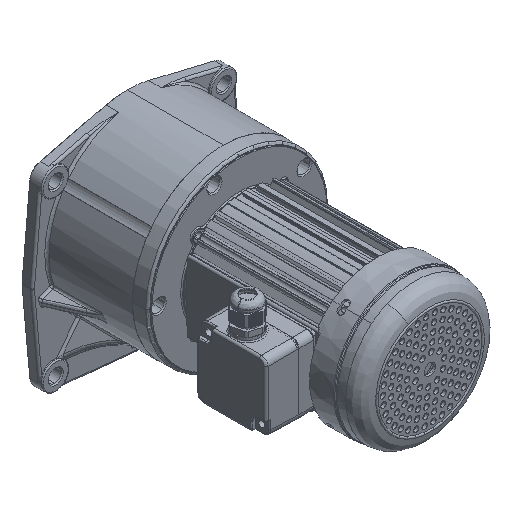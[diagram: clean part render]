
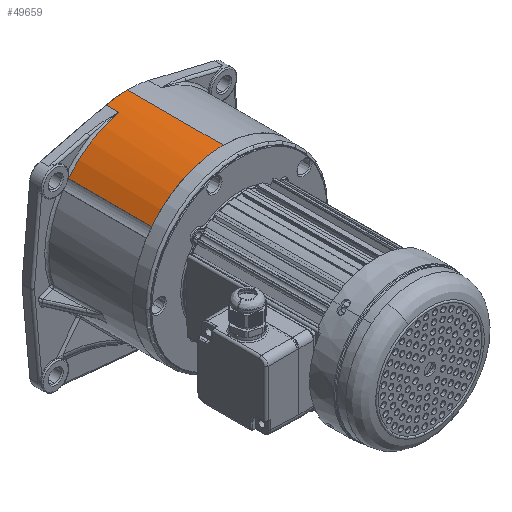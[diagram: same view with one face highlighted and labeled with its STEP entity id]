
A CAD part, isometric view. The second image highlights one B-rep face of the part: STEP entity #49659.
In plain terms, the highlighted cylindrical face has radius 84 mm (diameter 168 mm), a partial arc.
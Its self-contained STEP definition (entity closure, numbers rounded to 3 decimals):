
#702 = CARTESIAN_POINT ( 'NONE',  ( 0., 0., 23. ) ) ;
#703 = DIRECTION ( 'NONE',  ( 0., 1., 0. ) ) ;
#704 = DIRECTION ( 'NONE',  ( 0., 0., 1. ) ) ;
#24891 = LINE ( 'NONE', #24893, #117704 ) ;
#24893 = CARTESIAN_POINT ( 'NONE',  ( 0., 0., 107. ) ) ;
#24895 = DIRECTION ( 'NONE',  ( 0., 1., 0. ) ) ;
#24970 = LINE ( 'NONE', #24971, #117717 ) ;
#24971 = CARTESIAN_POINT ( 'NONE',  ( 66.111, 12.5, 74.82 ) ) ;
#24973 = DIRECTION ( 'NONE',  ( 0., 1., 0. ) ) ;
#25027 = CARTESIAN_POINT ( 'NONE',  ( 19.705, 1., 104.656 ) ) ;
#25029 = CARTESIAN_POINT ( 'NONE',  ( 13.245, 1., 106.215 ) ) ;
#25031 = CARTESIAN_POINT ( 'NONE',  ( 6.646, 1., 107. ) ) ;
#25033 = CARTESIAN_POINT ( 'NONE',  ( 0., 1., 107. ) ) ;
#25034 = CARTESIAN_POINT ( 'NONE',  ( 0., 12.5, 23. ) ) ;
#25036 = LINE ( 'NONE', #25038, #117729 ) ;
#25038 = CARTESIAN_POINT ( 'NONE',  ( 19.705, 1., 104.656 ) ) ;
#25040 = DIRECTION ( 'NONE',  ( 0., 1., 0. ) ) ;
#25041 = DIRECTION ( 'NONE',  ( 0., 1., 0. ) ) ;
#25043 = DIRECTION ( 'NONE',  ( 0.235, 0., 0.972 ) ) ;
#25045 = CARTESIAN_POINT ( 'NONE',  ( 0., 89.5, 23. ) ) ;
#25047 = DIRECTION ( 'NONE',  ( 0., -1., 0. ) ) ;
#25049 = DIRECTION ( 'NONE',  ( 0., 0., 1. ) ) ;
#36383 = VERTEX_POINT ( 'NONE', #113120 ) ;
#36387 = VERTEX_POINT ( 'NONE', #113122 ) ;
#36908 = VERTEX_POINT ( 'NONE', #113131 ) ;
#36909 = VERTEX_POINT ( 'NONE', #113132 ) ;
#36916 = VERTEX_POINT ( 'NONE', #113139 ) ;
#36917 = VERTEX_POINT ( 'NONE', #113140 ) ;
#49659 = ADVANCED_FACE ( 'NONE', ( #117334 ), #117339, .T. ) ;
#50313 = EDGE_CURVE ( 'NONE', #36383, #36387, #24891, .T. ) ;
#50327 = EDGE_CURVE ( 'NONE', #36909, #36908, #24970, .T. ) ;
#50338 = EDGE_CURVE ( 'NONE', #36916, #36383, #126719, .T. ) ;
#50339 = EDGE_CURVE ( 'NONE', #36916, #36917, #25036, .T. ) ;
#50340 = EDGE_CURVE ( 'NONE', #36917, #36909, #125087, .T. ) ;
#50341 = EDGE_CURVE ( 'NONE', #36908, #36387, #125088, .T. ) ;
#53794 = EDGE_LOOP ( 'NONE', ( #54399, #54400, #54397, #54401, #54402, #54403 ) ) ;
#54397 = ORIENTED_EDGE ( 'NONE', *, *, #50339, .T. ) ;
#54399 = ORIENTED_EDGE ( 'NONE', *, *, #50313, .F. ) ;
#54400 = ORIENTED_EDGE ( 'NONE', *, *, #50338, .F. ) ;
#54401 = ORIENTED_EDGE ( 'NONE', *, *, #50340, .T. ) ;
#54402 = ORIENTED_EDGE ( 'NONE', *, *, #50327, .T. ) ;
#54403 = ORIENTED_EDGE ( 'NONE', *, *, #50341, .T. ) ;
#113120 = CARTESIAN_POINT ( 'NONE',  ( 0., 1., 107. ) ) ;
#113122 = CARTESIAN_POINT ( 'NONE',  ( 0., 89.5, 107. ) ) ;
#113131 = CARTESIAN_POINT ( 'NONE',  ( 66.111, 89.5, 74.82 ) ) ;
#113132 = CARTESIAN_POINT ( 'NONE',  ( 66.111, 12.5, 74.82 ) ) ;
#113139 = CARTESIAN_POINT ( 'NONE',  ( 19.705, 1., 104.656 ) ) ;
#113140 = CARTESIAN_POINT ( 'NONE',  ( 19.705, 12.5, 104.656 ) ) ;
#117334 = FACE_OUTER_BOUND ( 'NONE', #53794, .T. ) ;
#117338 = AXIS2_PLACEMENT_3D ( 'NONE', #702, #703, #704 ) ;
#117339 = CYLINDRICAL_SURFACE ( 'NONE', #117338, 84. ) ;
#117704 = VECTOR ( 'NONE', #24895, 1000. ) ;
#117717 = VECTOR ( 'NONE', #24973, 1000. ) ;
#117727 = AXIS2_PLACEMENT_3D ( 'NONE', #25045, #25047, #25049 ) ;
#117728 = AXIS2_PLACEMENT_3D ( 'NONE', #25034, #25041, #25043 ) ;
#117729 = VECTOR ( 'NONE', #25040, 1000. ) ;
#125087 = CIRCLE ( 'NONE', #117728, 84. ) ;
#125088 = CIRCLE ( 'NONE', #117727, 84. ) ;
#126719 =( BOUNDED_CURVE ( )  B_SPLINE_CURVE ( 3, ( #25027, #25029, #25031, #25033 ),
 .UNSPECIFIED., .F., .F. ) 
 B_SPLINE_CURVE_WITH_KNOTS ( ( 4, 4 ),
 ( 0., 0.5 ),
 .UNSPECIFIED. ) 
 CURVE ( )  GEOMETRIC_REPRESENTATION_ITEM ( )  RATIONAL_B_SPLINE_CURVE ( ( 1., 0.995, 0.995, 1. ) ) 
 REPRESENTATION_ITEM ( '' )  );
